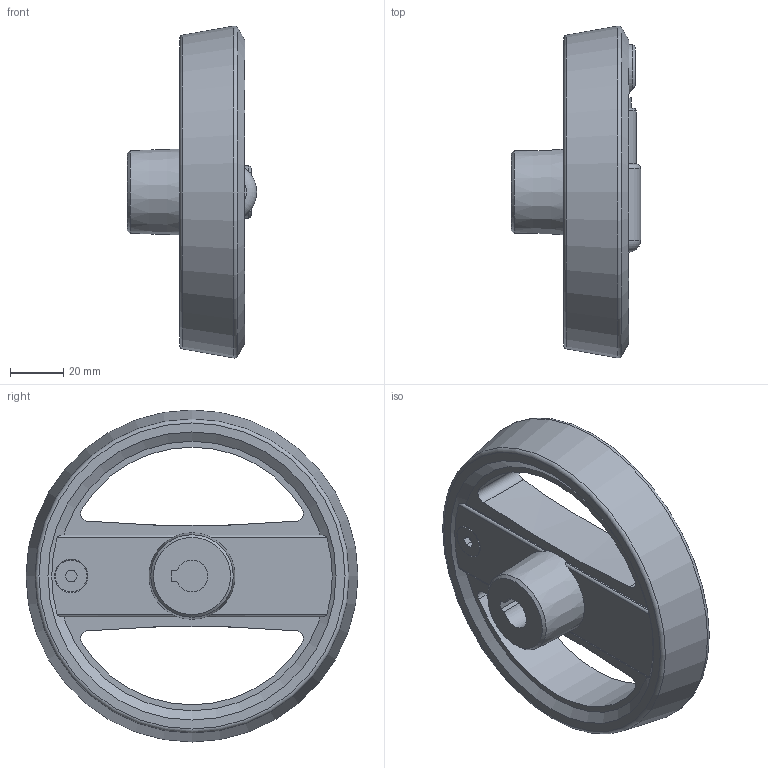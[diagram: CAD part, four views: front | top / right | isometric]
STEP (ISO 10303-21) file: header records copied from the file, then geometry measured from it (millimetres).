
FILE_DESCRIPTION( ( 'STEP AP203' ), '1' );
FILE_NAME( 'C:/Temp/Ganter_Step_05_03_2020/data/1_3/gn_924_7/gn_924_7_k/Handwheel with retractable handle GN 924.7-125-K12-R-SW (unactivated).stp', '2020-03-05T10:41:50', ( 'License CC BY-ND 4.0' ), ( 'CADENAS' ), ' ', 'PARTsolutions', ' ' );
FILE_SCHEMA( ( 'CONFIG_CONTROL_DESIGN' ) );
Length unit declared in the file: millimetre
Products named in the file (3): Handwheel with retractable handle GN 924.7-125-K12-R-SW (unactivated); _Umleggriff-Handrad GN 924.7-125-K12-R-SW-1; _Umleggriff-Handrad GN 924.7-125-K12-R-SW (0)-2
Assembly tree (2 placements, depth 2):
  Handwheel with retractable handle GN 924.7-125-K12-R-SW (unactivated)
    _Umleggriff-Handrad GN 924.7-125-K12-R-SW-1
    _Umleggriff-Handrad GN 924.7-125-K12-R-SW (0)-2
Bounding box: 48.7 x 125 x 125 mm (x, y, z)
Volume: 165665.8 mm3; surface area: 51615.1 mm2
Topology: 2 solids, 2 shells, 106 faces, 267 edges, 171 vertices
Faces by surface type: plane 46, cylinder 39, cone 11, torus 8, sphere 2
Full cylindrical faces by diameter (mm): 4 x4, 5 x1, 8 x1, 12 x1, 15 x1, 18.5 x1, 20 x1, 22 x1, 25 x1, 26.6 x1
Entity records: 3484 total; most frequent: CARTESIAN_POINT 988, DIRECTION 494, ORIENTED_EDGE 452, EDGE_CURVE 226, AXIS2_PLACEMENT_3D 203, VERTEX_POINT 165, EDGE_LOOP 158, FACE_OUTER_BOUND 126
